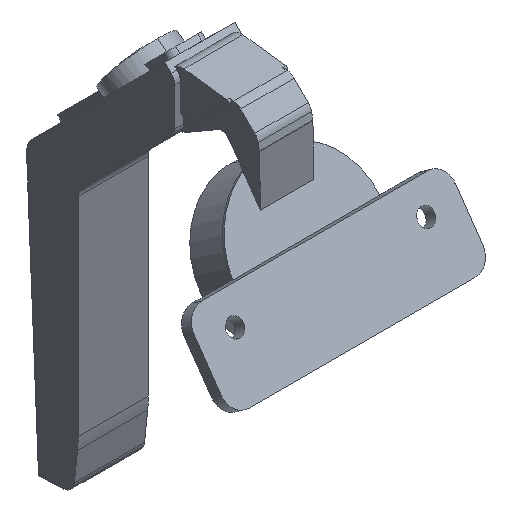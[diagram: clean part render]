
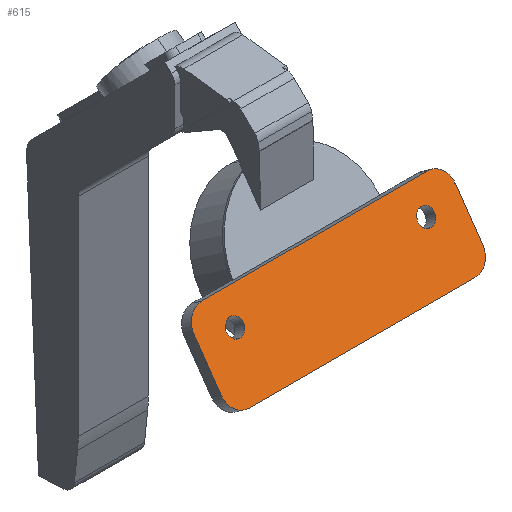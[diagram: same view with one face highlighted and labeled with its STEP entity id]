
A CAD part, isometric view. The second image highlights one B-rep face of the part: STEP entity #615.
In plain terms, the highlighted planar face has unit normal (0, -0.822, 0.57).
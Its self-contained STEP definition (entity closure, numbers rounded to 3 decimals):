
#35 = EDGE_CURVE ( 'NONE', #267, #887, #2151, .T. ) ;
#48 = DIRECTION ( 'NONE',  ( 0., -0.822, 0.57 ) ) ;
#111 = CARTESIAN_POINT ( 'NONE',  ( 41.6, -59.933, 50.876 ) ) ;
#146 = CARTESIAN_POINT ( 'NONE',  ( 37.1, -59.933, 50.876 ) ) ;
#157 = ORIENTED_EDGE ( 'NONE', *, *, #3046, .F. ) ;
#163 = EDGE_CURVE ( 'NONE', #1402, #2303, #1777, .T. ) ;
#215 = CARTESIAN_POINT ( 'NONE',  ( 41.6, -59.933, 50.876 ) ) ;
#221 = EDGE_CURVE ( 'NONE', #468, #267, #1995, .T. ) ;
#245 = CARTESIAN_POINT ( 'NONE',  ( 37.1, -50.527, 64.433 ) ) ;
#258 = CARTESIAN_POINT ( 'NONE',  ( 21.6, -52.535, 61.54 ) ) ;
#267 = VERTEX_POINT ( 'NONE', #799 ) ;
#275 = DIRECTION ( 'NONE',  ( 0., -0.57, -0.822 ) ) ;
#380 = AXIS2_PLACEMENT_3D ( 'NONE', #1443, #1211, #2195 ) ;
#408 = LINE ( 'NONE', #3098, #2413 ) ;
#451 = CARTESIAN_POINT ( 'NONE',  ( 32.8, -53.378, 60.325 ) ) ;
#461 = CARTESIAN_POINT ( 'NONE',  ( 37.1, -53.093, 60.736 ) ) ;
#468 = VERTEX_POINT ( 'NONE', #2811 ) ;
#471 = DIRECTION ( 'NONE',  ( 0., -0.57, -0.822 ) ) ;
#474 = EDGE_CURVE ( 'NONE', #2849, #1163, #1585, .T. ) ;
#517 = EDGE_CURVE ( 'NONE', #2303, #1402, #1728, .T. ) ;
#518 = VERTEX_POINT ( 'NONE', #2914 ) ;
#520 = FACE_BOUND ( 'NONE', #2008, .T. ) ;
#546 = VERTEX_POINT ( 'NONE', #245 ) ;
#609 = DIRECTION ( 'NONE',  ( 0., -0.57, -0.822 ) ) ;
#615 = ADVANCED_FACE ( 'NONE', ( #2791, #1530, #520 ), #763, .T. ) ;
#763 = PLANE ( 'NONE',  #791 ) ;
#791 = AXIS2_PLACEMENT_3D ( 'NONE', #258, #813, #1301 ) ;
#799 = CARTESIAN_POINT ( 'NONE',  ( -24., -53.093, 60.736 ) ) ;
#813 = DIRECTION ( 'NONE',  ( 0., -0.822, 0.57 ) ) ;
#870 = DIRECTION ( 'NONE',  ( -1., 0., 0. ) ) ;
#883 = DIRECTION ( 'NONE',  ( 0., -0.822, 0.57 ) ) ;
#887 = VERTEX_POINT ( 'NONE', #2899 ) ;
#942 = DIRECTION ( 'NONE',  ( 0., -0.822, 0.57 ) ) ;
#969 = CIRCLE ( 'NONE', #2839, 4.5 ) ;
#997 = CARTESIAN_POINT ( 'NONE',  ( 32.8, -55.772, 56.874 ) ) ;
#1042 = ORIENTED_EDGE ( 'NONE', *, *, #1560, .T. ) ;
#1043 = DIRECTION ( 'NONE',  ( 0., -0.57, -0.822 ) ) ;
#1053 = DIRECTION ( 'NONE',  ( 0., 0.57, 0.822 ) ) ;
#1067 = ORIENTED_EDGE ( 'NONE', *, *, #1632, .F. ) ;
#1163 = VERTEX_POINT ( 'NONE', #2605 ) ;
#1165 = AXIS2_PLACEMENT_3D ( 'NONE', #3173, #1417, #471 ) ;
#1182 = DIRECTION ( 'NONE',  ( 0., -0.57, -0.822 ) ) ;
#1211 = DIRECTION ( 'NONE',  ( 0., -0.822, 0.57 ) ) ;
#1213 = ORIENTED_EDGE ( 'NONE', *, *, #474, .T. ) ;
#1236 = DIRECTION ( 'NONE',  ( 0., -0.822, 0.57 ) ) ;
#1259 = CARTESIAN_POINT ( 'NONE',  ( -19.5, -53.093, 60.736 ) ) ;
#1272 = VECTOR ( 'NONE', #2436, 1000. ) ;
#1300 = LINE ( 'NONE', #111, #2890 ) ;
#1301 = DIRECTION ( 'NONE',  ( -1., 0., 0. ) ) ;
#1347 = VERTEX_POINT ( 'NONE', #1959 ) ;
#1355 = VERTEX_POINT ( 'NONE', #1471 ) ;
#1378 = VERTEX_POINT ( 'NONE', #215 ) ;
#1390 = CARTESIAN_POINT ( 'NONE',  ( -19.5, -59.933, 50.876 ) ) ;
#1402 = VERTEX_POINT ( 'NONE', #997 ) ;
#1417 = DIRECTION ( 'NONE',  ( 0., -0.822, 0.57 ) ) ;
#1418 = DIRECTION ( 'NONE',  ( 0., -0.822, 0.57 ) ) ;
#1443 = CARTESIAN_POINT ( 'NONE',  ( 32.8, -54.575, 58.6 ) ) ;
#1471 = CARTESIAN_POINT ( 'NONE',  ( -15.2, -53.378, 60.325 ) ) ;
#1530 = FACE_BOUND ( 'NONE', #1559, .T. ) ;
#1559 = EDGE_LOOP ( 'NONE', ( #157, #1067 ) ) ;
#1560 = EDGE_CURVE ( 'NONE', #546, #468, #408, .T. ) ;
#1585 = LINE ( 'NONE', #2573, #1272 ) ;
#1632 = EDGE_CURVE ( 'NONE', #1355, #1347, #1641, .T. ) ;
#1641 = CIRCLE ( 'NONE', #1783, 2.1 ) ;
#1659 = DIRECTION ( 'NONE',  ( 0., -0.822, 0.57 ) ) ;
#1686 = CARTESIAN_POINT ( 'NONE',  ( -15.2, -54.575, 58.6 ) ) ;
#1728 = CIRCLE ( 'NONE', #1165, 2.1 ) ;
#1777 = CIRCLE ( 'NONE', #380, 2.1 ) ;
#1783 = AXIS2_PLACEMENT_3D ( 'NONE', #2864, #1418, #2378 ) ;
#1916 = ORIENTED_EDGE ( 'NONE', *, *, #517, .F. ) ;
#1959 = CARTESIAN_POINT ( 'NONE',  ( -15.2, -55.772, 56.874 ) ) ;
#1995 = CIRCLE ( 'NONE', #2140, 4.5 ) ;
#2008 = EDGE_LOOP ( 'NONE', ( #2926, #1916 ) ) ;
#2018 = ORIENTED_EDGE ( 'NONE', *, *, #2740, .T. ) ;
#2111 = DIRECTION ( 'NONE',  ( 0., -0.57, -0.822 ) ) ;
#2123 = ORIENTED_EDGE ( 'NONE', *, *, #3141, .T. ) ;
#2140 = AXIS2_PLACEMENT_3D ( 'NONE', #1259, #48, #1043 ) ;
#2151 = LINE ( 'NONE', #3150, #2395 ) ;
#2195 = DIRECTION ( 'NONE',  ( 0., -0.57, -0.822 ) ) ;
#2303 = VERTEX_POINT ( 'NONE', #451 ) ;
#2372 = CIRCLE ( 'NONE', #2994, 4.5 ) ;
#2378 = DIRECTION ( 'NONE',  ( 0., -0.57, -0.822 ) ) ;
#2395 = VECTOR ( 'NONE', #609, 1000. ) ;
#2413 = VECTOR ( 'NONE', #870, 1000. ) ;
#2436 = DIRECTION ( 'NONE',  ( 1., 0., 0. ) ) ;
#2573 = CARTESIAN_POINT ( 'NONE',  ( 35.3, -62.498, 47.179 ) ) ;
#2605 = CARTESIAN_POINT ( 'NONE',  ( 37.1, -62.498, 47.179 ) ) ;
#2676 = DIRECTION ( 'NONE',  ( 0., -0.57, -0.822 ) ) ;
#2731 = CIRCLE ( 'NONE', #3101, 4.5 ) ;
#2740 = EDGE_CURVE ( 'NONE', #1378, #518, #1300, .T. ) ;
#2779 = CIRCLE ( 'NONE', #3206, 2.1 ) ;
#2791 = FACE_OUTER_BOUND ( 'NONE', #3102, .T. ) ;
#2811 = CARTESIAN_POINT ( 'NONE',  ( -19.5, -50.527, 64.433 ) ) ;
#2839 = AXIS2_PLACEMENT_3D ( 'NONE', #1390, #883, #1182 ) ;
#2849 = VERTEX_POINT ( 'NONE', #2873 ) ;
#2864 = CARTESIAN_POINT ( 'NONE',  ( -15.2, -54.575, 58.6 ) ) ;
#2873 = CARTESIAN_POINT ( 'NONE',  ( -19.5, -62.498, 47.179 ) ) ;
#2889 = EDGE_CURVE ( 'NONE', #1163, #1378, #2372, .T. ) ;
#2890 = VECTOR ( 'NONE', #1053, 1000. ) ;
#2899 = CARTESIAN_POINT ( 'NONE',  ( -24., -59.933, 50.876 ) ) ;
#2905 = ORIENTED_EDGE ( 'NONE', *, *, #35, .T. ) ;
#2914 = CARTESIAN_POINT ( 'NONE',  ( 41.6, -53.093, 60.736 ) ) ;
#2923 = ORIENTED_EDGE ( 'NONE', *, *, #2889, .T. ) ;
#2926 = ORIENTED_EDGE ( 'NONE', *, *, #163, .F. ) ;
#2994 = AXIS2_PLACEMENT_3D ( 'NONE', #146, #1659, #2111 ) ;
#3046 = EDGE_CURVE ( 'NONE', #1347, #1355, #2779, .T. ) ;
#3091 = ORIENTED_EDGE ( 'NONE', *, *, #221, .T. ) ;
#3098 = CARTESIAN_POINT ( 'NONE',  ( 35.3, -50.527, 64.433 ) ) ;
#3101 = AXIS2_PLACEMENT_3D ( 'NONE', #461, #942, #275 ) ;
#3102 = EDGE_LOOP ( 'NONE', ( #2123, #1213, #2923, #2018, #3176, #1042, #3091, #2905 ) ) ;
#3141 = EDGE_CURVE ( 'NONE', #887, #2849, #969, .T. ) ;
#3150 = CARTESIAN_POINT ( 'NONE',  ( -24., -53.093, 60.736 ) ) ;
#3173 = CARTESIAN_POINT ( 'NONE',  ( 32.8, -54.575, 58.6 ) ) ;
#3176 = ORIENTED_EDGE ( 'NONE', *, *, #3224, .T. ) ;
#3206 = AXIS2_PLACEMENT_3D ( 'NONE', #1686, #1236, #2676 ) ;
#3224 = EDGE_CURVE ( 'NONE', #518, #546, #2731, .T. ) ;
